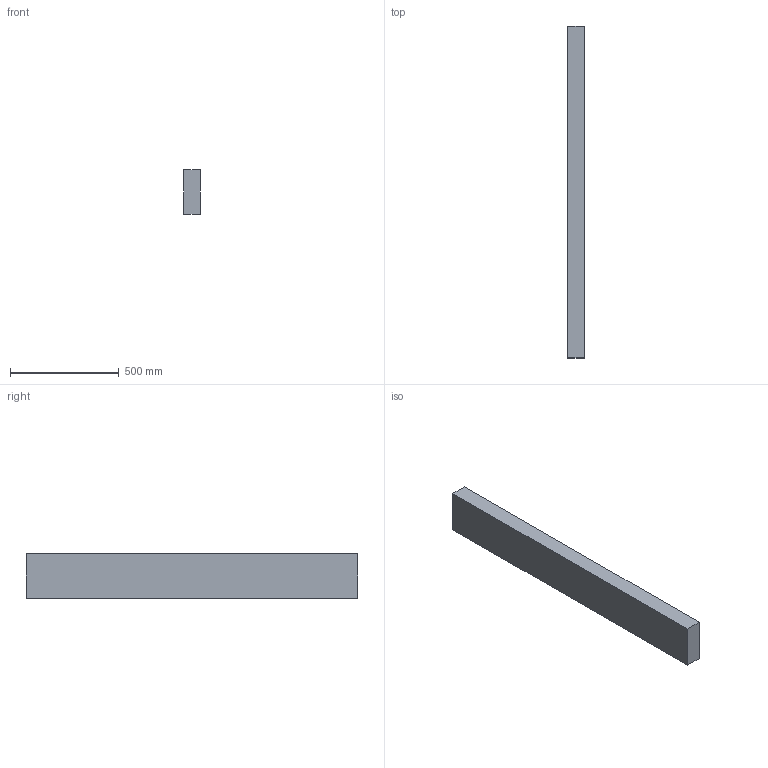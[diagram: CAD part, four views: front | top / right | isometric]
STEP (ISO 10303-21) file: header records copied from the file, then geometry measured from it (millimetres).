
FILE_DESCRIPTION(/* description */ (''),/* implementation_level */ '2;1');
FILE_NAME(/* name */ '3x8x60',/* time_stamp */ '2024-09-20T11:43:38-05:00',/* author */ (''),/* organization */ (''),/* preprocessor_version */ 'ST-DEVELOPER v19.2',/* originating_system */ 'Rhino 8.5',/* authorisation */ '');
FILE_SCHEMA (('CONFIG_CONTROL_DESIGN'));
Length unit declared in the file: inch
Products named in the file (1): Document
Bounding box: 76.2 x 1524 x 203.2 mm (x, y, z)
Volume: 23597372.2 mm3; surface area: 882578.9 mm2
Topology: 1 solids, 1 shells, 6 faces, 12 edges, 8 vertices
Faces by surface type: plane 6
Entity records: 226 total; most frequent: CARTESIAN_POINT 40, ORIENTED_EDGE 24, EDGE_CURVE 12, B_SPLINE_CURVE_WITH_KNOTS 12, DIRECTION 10, VERTEX_POINT 8, AXIS2_PLACEMENT_3D 8, ORGANIZATION 7
